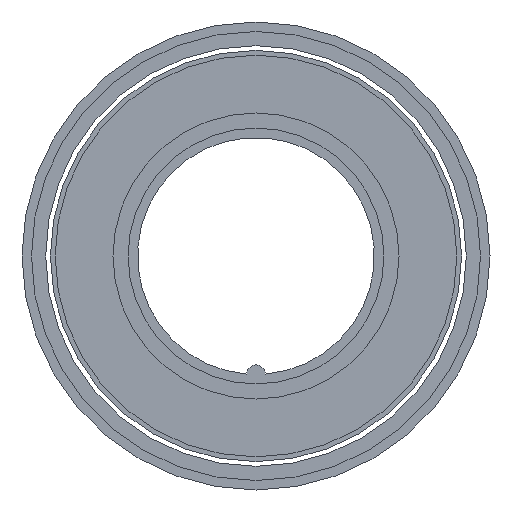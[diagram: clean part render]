
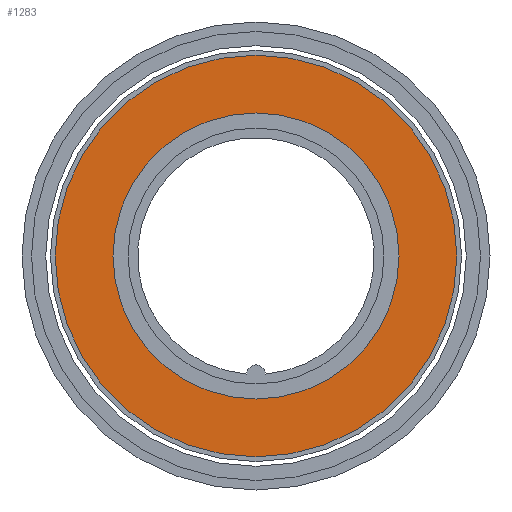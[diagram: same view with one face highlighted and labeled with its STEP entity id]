
A CAD part, front view. The second image highlights one B-rep face of the part: STEP entity #1283.
In plain terms, the highlighted planar face has unit normal (0, -1, 0).
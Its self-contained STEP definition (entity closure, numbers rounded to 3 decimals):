
#3 = AXIS2_PLACEMENT_3D ( 'NONE', #1176, #404, #725 ) ;
#53 = CARTESIAN_POINT ( 'NONE',  ( 0., -2.5, 0. ) ) ;
#85 = DIRECTION ( 'NONE',  ( 0., 0., 1. ) ) ;
#87 = AXIS2_PLACEMENT_3D ( 'NONE', #469, #463, #674 ) ;
#103 = CIRCLE ( 'NONE', #1358, 21.2 ) ;
#120 = CARTESIAN_POINT ( 'NONE',  ( 0., -2.5, -15.1 ) ) ;
#134 = CARTESIAN_POINT ( 'NONE',  ( 0., -2.5, 15.1 ) ) ;
#190 = CARTESIAN_POINT ( 'NONE',  ( 0., -2.5, 0. ) ) ;
#366 = CARTESIAN_POINT ( 'NONE',  ( 0., -2.5, -21.2 ) ) ;
#404 = DIRECTION ( 'NONE',  ( 0., -1., 0. ) ) ;
#430 = CARTESIAN_POINT ( 'NONE',  ( 0., -2.5, 0. ) ) ;
#446 = EDGE_CURVE ( 'NONE', #1057, #940, #957, .T. ) ;
#463 = DIRECTION ( 'NONE',  ( 0., -1., 0. ) ) ;
#469 = CARTESIAN_POINT ( 'NONE',  ( 0., -2.5, 0. ) ) ;
#594 = EDGE_CURVE ( 'NONE', #940, #1057, #103, .T. ) ;
#609 = DIRECTION ( 'NONE',  ( 0., -1., 0. ) ) ;
#619 = DIRECTION ( 'NONE',  ( 0., 1., 0. ) ) ;
#674 = DIRECTION ( 'NONE',  ( 0., 0., 1. ) ) ;
#702 = ORIENTED_EDGE ( 'NONE', *, *, #1022, .F. ) ;
#725 = DIRECTION ( 'NONE',  ( 0., 0., 1. ) ) ;
#794 = AXIS2_PLACEMENT_3D ( 'NONE', #190, #619, #85 ) ;
#838 = FACE_BOUND ( 'NONE', #1113, .T. ) ;
#864 = AXIS2_PLACEMENT_3D ( 'NONE', #53, #609, #1153 ) ;
#940 = VERTEX_POINT ( 'NONE', #1354 ) ;
#957 = CIRCLE ( 'NONE', #864, 21.2 ) ;
#977 = ORIENTED_EDGE ( 'NONE', *, *, #446, .T. ) ;
#1022 = EDGE_CURVE ( 'NONE', #1067, #1023, #1340, .T. ) ;
#1023 = VERTEX_POINT ( 'NONE', #134 ) ;
#1050 = PLANE ( 'NONE',  #794 ) ;
#1055 = DIRECTION ( 'NONE',  ( 0., 0., 1. ) ) ;
#1057 = VERTEX_POINT ( 'NONE', #366 ) ;
#1065 = ORIENTED_EDGE ( 'NONE', *, *, #594, .T. ) ;
#1067 = VERTEX_POINT ( 'NONE', #120 ) ;
#1107 = CIRCLE ( 'NONE', #3, 15.1 ) ;
#1113 = EDGE_LOOP ( 'NONE', ( #1267, #702 ) ) ;
#1153 = DIRECTION ( 'NONE',  ( 0., 0., 1. ) ) ;
#1167 = DIRECTION ( 'NONE',  ( 0., -1., 0. ) ) ;
#1168 = FACE_OUTER_BOUND ( 'NONE', #1330, .T. ) ;
#1176 = CARTESIAN_POINT ( 'NONE',  ( 0., -2.5, 0. ) ) ;
#1234 = EDGE_CURVE ( 'NONE', #1023, #1067, #1107, .T. ) ;
#1267 = ORIENTED_EDGE ( 'NONE', *, *, #1234, .F. ) ;
#1283 = ADVANCED_FACE ( 'NONE', ( #1168, #838 ), #1050, .F. ) ;
#1330 = EDGE_LOOP ( 'NONE', ( #1065, #977 ) ) ;
#1340 = CIRCLE ( 'NONE', #87, 15.1 ) ;
#1354 = CARTESIAN_POINT ( 'NONE',  ( 0., -2.5, 21.2 ) ) ;
#1358 = AXIS2_PLACEMENT_3D ( 'NONE', #430, #1167, #1055 ) ;
